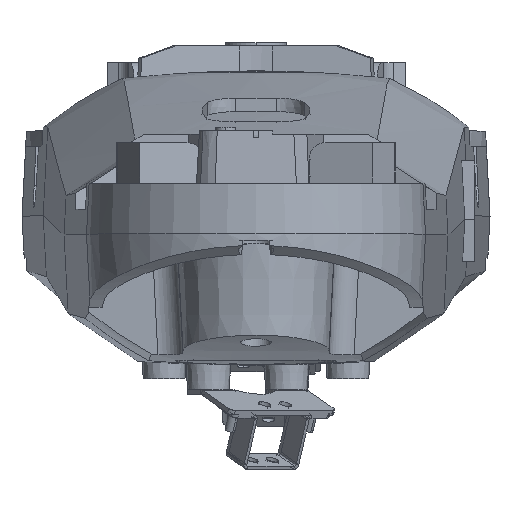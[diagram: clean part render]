
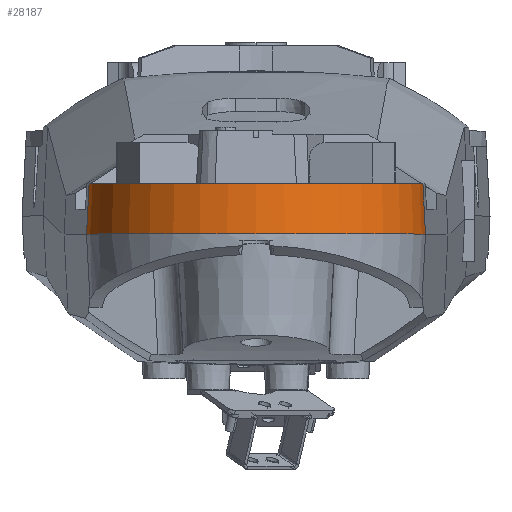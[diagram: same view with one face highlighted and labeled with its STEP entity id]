
A CAD part, top view. The second image highlights one B-rep face of the part: STEP entity #28187.
In plain terms, the highlighted conical face has half-angle 3 degrees and reference radius 101.5 mm.
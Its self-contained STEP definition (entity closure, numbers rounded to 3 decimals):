
#569 = CONICAL_SURFACE ( 'NONE', #1593, 101.5, 0.052 ) ;
#1052 = VECTOR ( 'NONE', #13075, 1000. ) ;
#1464 = FACE_OUTER_BOUND ( 'NONE', #28376, .T. ) ;
#1593 = AXIS2_PLACEMENT_3D ( 'NONE', #5845, #5765, #5885 ) ;
#2061 = EDGE_CURVE ( 'NONE', #16440, #5008, #5355, .T. ) ;
#3638 = LINE ( 'NONE', #15470, #27921 ) ;
#3951 = B_SPLINE_CURVE_WITH_KNOTS ( 'NONE', 3,
 ( #24233, #24431, #24131, #24071 ),
 .UNSPECIFIED., .F., .F.,
 ( 4, 4 ),
 ( 0., 0.015 ),
 .UNSPECIFIED. ) ;
#5008 = VERTEX_POINT ( 'NONE', #22179 ) ;
#5355 = CIRCLE ( 'NONE', #30849, 99.928 ) ;
#5765 = DIRECTION ( 'NONE',  ( 0., -1., 0. ) ) ;
#5845 = CARTESIAN_POINT ( 'NONE',  ( 175., -171.2, 1395. ) ) ;
#5885 = DIRECTION ( 'NONE',  ( 0., 0., -1. ) ) ;
#6114 = EDGE_CURVE ( 'NONE', #22274, #14966, #28510, .T. ) ;
#7035 = DIRECTION ( 'NONE',  ( -1., 0., 0. ) ) ;
#7112 = DIRECTION ( 'NONE',  ( 0., 1., 0. ) ) ;
#7159 = CARTESIAN_POINT ( 'NONE',  ( 175., -141.2, 1395. ) ) ;
#8034 = ORIENTED_EDGE ( 'NONE', *, *, #14652, .F. ) ;
#8909 = ORIENTED_EDGE ( 'NONE', *, *, #6114, .T. ) ;
#11044 = CIRCLE ( 'NONE', #27225, 101.5 ) ;
#13075 = DIRECTION ( 'NONE',  ( -0.052, 0.999, -0.002 ) ) ;
#13326 = CARTESIAN_POINT ( 'NONE',  ( 73.593, -171.2, 1399.342 ) ) ;
#14611 = EDGE_CURVE ( 'NONE', #22274, #30260, #11044, .T. ) ;
#14652 = EDGE_CURVE ( 'NONE', #30260, #26061, #3638, .T. ) ;
#14966 = VERTEX_POINT ( 'NONE', #26984 ) ;
#15044 = ORIENTED_EDGE ( 'NONE', *, *, #14611, .F. ) ;
#15071 = EDGE_CURVE ( 'NONE', #5008, #14966, #3951, .T. ) ;
#15470 = CARTESIAN_POINT ( 'NONE',  ( 73.593, -171.2, 1399.342 ) ) ;
#15641 = B_SPLINE_CURVE_WITH_KNOTS ( 'NONE', 3,
 ( #18470, #18463, #17865, #17857 ),
 .UNSPECIFIED., .F., .F.,
 ( 4, 4 ),
 ( 0., 0.015 ),
 .UNSPECIFIED. ) ;
#16111 = CARTESIAN_POINT ( 'NONE',  ( 75.134, -141.2, 1398.522 ) ) ;
#16440 = VERTEX_POINT ( 'NONE', #16111 ) ;
#17857 = CARTESIAN_POINT ( 'NONE',  ( 75.134, -141.2, 1398.522 ) ) ;
#17865 = CARTESIAN_POINT ( 'NONE',  ( 74.881, -146.2, 1398.784 ) ) ;
#18359 = CARTESIAN_POINT ( 'NONE',  ( 276.407, -171.2, 1399.342 ) ) ;
#18463 = CARTESIAN_POINT ( 'NONE',  ( 74.629, -151.2, 1399.046 ) ) ;
#18470 = CARTESIAN_POINT ( 'NONE',  ( 74.378, -156.2, 1399.308 ) ) ;
#19498 = DIRECTION ( 'NONE',  ( 0.052, 0.999, -0.002 ) ) ;
#20602 = CARTESIAN_POINT ( 'NONE',  ( 276.407, -171.2, 1399.342 ) ) ;
#20984 = ORIENTED_EDGE ( 'NONE', *, *, #24817, .F. ) ;
#22179 = CARTESIAN_POINT ( 'NONE',  ( 274.867, -141.2, 1398.489 ) ) ;
#22274 = VERTEX_POINT ( 'NONE', #20602 ) ;
#24071 = CARTESIAN_POINT ( 'NONE',  ( 275.622, -156.2, 1399.308 ) ) ;
#24131 = CARTESIAN_POINT ( 'NONE',  ( 275.371, -151.2, 1399.035 ) ) ;
#24233 = CARTESIAN_POINT ( 'NONE',  ( 274.867, -141.2, 1398.489 ) ) ;
#24431 = CARTESIAN_POINT ( 'NONE',  ( 275.119, -146.2, 1398.762 ) ) ;
#24817 = EDGE_CURVE ( 'NONE', #26061, #16440, #15641, .T. ) ;
#26061 = VERTEX_POINT ( 'NONE', #28789 ) ;
#26302 = ORIENTED_EDGE ( 'NONE', *, *, #15071, .F. ) ;
#26984 = CARTESIAN_POINT ( 'NONE',  ( 275.622, -156.2, 1399.308 ) ) ;
#27225 = AXIS2_PLACEMENT_3D ( 'NONE', #29105, #28901, #28898 ) ;
#27921 = VECTOR ( 'NONE', #19498, 1000. ) ;
#28187 = ADVANCED_FACE ( 'NONE', ( #1464 ), #569, .T. ) ;
#28376 = EDGE_LOOP ( 'NONE', ( #26302, #30932, #20984, #8034, #15044, #8909 ) ) ;
#28510 = LINE ( 'NONE', #18359, #1052 ) ;
#28789 = CARTESIAN_POINT ( 'NONE',  ( 74.378, -156.2, 1399.308 ) ) ;
#28898 = DIRECTION ( 'NONE',  ( 0., 0., -1. ) ) ;
#28901 = DIRECTION ( 'NONE',  ( 0., -1., 0. ) ) ;
#29105 = CARTESIAN_POINT ( 'NONE',  ( 175., -171.2, 1395. ) ) ;
#30260 = VERTEX_POINT ( 'NONE', #13326 ) ;
#30849 = AXIS2_PLACEMENT_3D ( 'NONE', #7159, #7112, #7035 ) ;
#30932 = ORIENTED_EDGE ( 'NONE', *, *, #2061, .F. ) ;
